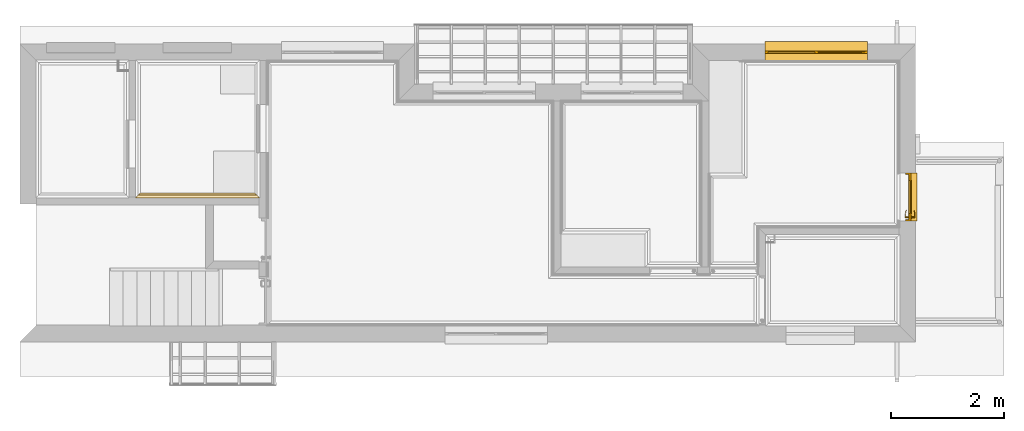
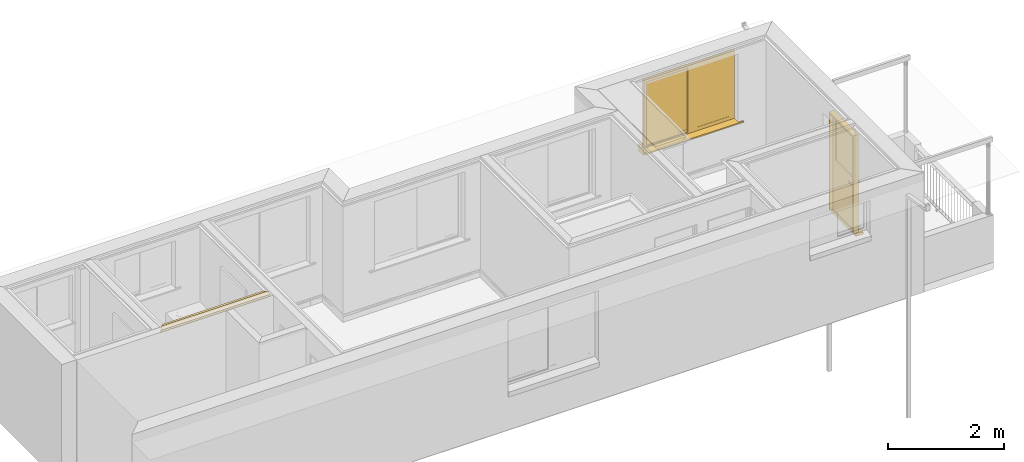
# One storey, part 11 of 18: 1 covering, 1 door, 1 window.
"""IFC2X3 building model written with IfcOpenShell, lengths in millimetres."""

import ifcopenshell
import ifcopenshell.guid

model = None  # the IFC model being written
_history = None  # IfcOwnerHistory: only IFC2X3 demands one
_inside = {}  # id of a spatial element -> (the spatial element, [elements in it])
_under = {}  # id of a project, library or spatial element -> (it, [spatial elements below it])
_declared = {}  # id of a project -> (the project, [libraries it declares])
_typed = {}  # id of a type object -> (the type object, [elements of that type])
_made_of = {}  # id of a material, layer set ... -> (it, [elements and type objects made of it])


def new_model(schema):
    """Start an empty IFC model of exactly this schema.

    Asked for "IFC4X3", IfcOpenShell would pick the latest addendum, in which some entities
    have other attributes; the version numbers below select the first issue.
    IFC2X3 requires an IfcOwnerHistory on every rooted entity: one is made here for all.
    """
    global model, _history
    if schema == "IFC4X3":
        model = ifcopenshell.file(schema_version=(4, 3, 0, 0))
    else:
        model = ifcopenshell.file(schema=schema)
    _inside.clear()
    _under.clear()
    _declared.clear()
    _typed.clear()
    _made_of.clear()
    _history = None
    if model.schema == "IFC2X3":
        org = make("IfcOrganization", Name="unknown")
        user = make(
            "IfcPersonAndOrganization",
            ThePerson=make("IfcPerson", FamilyName="unknown"),
            TheOrganization=org,
        )
        app = make(
            "IfcApplication",
            ApplicationDeveloper=org,
            Version="unknown",
            ApplicationFullName="unknown",
            ApplicationIdentifier="unknown",
        )
        _history = make(
            "IfcOwnerHistory",
            OwningUser=user,
            OwningApplication=app,
            ChangeAction="ADDED",
            CreationDate=0,
        )
    return model


def make(cls, **values):
    """One entity of the class cls with the attributes given. An attribute that is None is left unset."""
    return model.create_entity(
        cls, **{name: value for name, value in values.items() if value is not None}
    )


def entity(cls, *values):
    """Any entity or typed value of the class cls, its attributes in the order of the schema. None: left unset."""
    e = model.create_entity(cls)
    for i, value in enumerate(values):
        if value is not None:
            e[i] = value
    return e


def rooted(cls, **values):
    """An entity with a GlobalId (a new one), such as an element, a storey or a relation."""
    return make(cls, GlobalId=ifcopenshell.guid.new(), OwnerHistory=_history, **values)


def si_unit(unit_type, name, prefix=None):
    """IfcSIUnit, for example si_unit("LENGTHUNIT", "METRE", prefix="MILLI")."""
    return make("IfcSIUnit", UnitType=unit_type, Prefix=prefix, Name=name)


def converted_unit(unit_type, name, factor, base, dimensions=None, offset=None):
    """IfcConversionBasedUnit, such as the inch: factor (a typed value) times the base unit."""
    return make(
        "IfcConversionBasedUnit"
        if offset is None
        else "IfcConversionBasedUnitWithOffset",
        ConversionOffset=offset,
        Dimensions=None
        if dimensions is None
        else entity("IfcDimensionalExponents", *dimensions),
        UnitType=unit_type,
        Name=name,
        ConversionFactor=make(
            "IfcMeasureWithUnit", ValueComponent=factor, UnitComponent=base
        ),
    )


def money_unit(currency):
    """IfcMonetaryUnit."""
    return make("IfcMonetaryUnit", Currency=currency)


def assignment(units):
    """IfcUnitAssignment: the units of a project."""
    return None if units is None else make("IfcUnitAssignment", Units=units)


def point(xyz):
    """IfcCartesianPoint."""
    return None if xyz is None else make("IfcCartesianPoint", Coordinates=xyz)


def direction(xyz):
    """IfcDirection."""
    return None if xyz is None else make("IfcDirection", DirectionRatios=xyz)


def frame(location, z_axis=None, x_axis=None):
    """IfcAxis2Placement3D, a coordinate frame: its origin and axes. An axis left out is left unset."""
    return make(
        "IfcAxis2Placement3D",
        Location=point(location),
        Axis=direction(z_axis),
        RefDirection=direction(x_axis),
    )


def origin_with_axes():
    """The frame at (0, 0, 0) with the z axis (0, 0, 1) and the x axis (1, 0, 0) written out."""
    return frame((0.0, 0.0, 0.0), z_axis=(0.0, 0.0, 1.0), x_axis=(1.0, 0.0, 0.0))


def place(relative_to, where):
    """IfcLocalPlacement: puts the frame where relative to a parent placement (None: the world)."""
    return make(
        "IfcLocalPlacement", PlacementRelTo=relative_to, RelativePlacement=where
    )


def context(
    kind, dimensions, precision=None, world=None, true_north=None, identifier=None
):
    """IfcGeometricRepresentationContext, for example the 3D "Model" context."""
    return make(
        "IfcGeometricRepresentationContext",
        ContextIdentifier=identifier,
        ContextType=kind,
        CoordinateSpaceDimension=dimensions,
        Precision=precision,
        WorldCoordinateSystem=world,
        TrueNorth=true_north,
    )


def subcontext(parent, identifier, kind, view, scale=None):
    """IfcGeometricRepresentationSubContext, for example "Body" below "Model"."""
    return make(
        "IfcGeometricRepresentationSubContext",
        ContextIdentifier=identifier,
        ContextType=kind,
        ParentContext=parent,
        TargetScale=scale,
        TargetView=view,
    )


def project(units=None, contexts=None):
    """IfcProject with its units and contexts."""
    return rooted(
        "IfcProject",
        Name="project",
        RepresentationContexts=contexts,
        UnitsInContext=assignment(units),
    )


def spatial(cls, under=None, at=None, **own):
    """A site, building, storey or space (cls), placed at a placement, below another one or the project."""
    s = rooted(cls, ObjectPlacement=at, **own)
    if under is not None:
        _under.setdefault(under.id(), (under, []))[1].append(s)
    return s


def faces_of(points, faces, orient=None, outer=None):
    """IfcFace entities. A face is a list of loops; a loop is a list of indices into points, from 0.

    orient and outer hold one flag for each loop. By default every Orientation is true, the
    first loop of a face is its IfcFaceOuterBound and the others are IfcFaceBound.
    """
    made = []
    for i, loops in enumerate(faces):
        bounds = []
        for j, loop in enumerate(loops):
            is_outer = j == 0 if outer is None else outer[i][j]
            bounds.append(
                make(
                    "IfcFaceOuterBound" if is_outer else "IfcFaceBound",
                    Bound=make("IfcPolyLoop", Polygon=[points[k] for k in loop]),
                    Orientation=True if orient is None else orient[i][j],
                )
            )
        made.append(make("IfcFace", Bounds=bounds))
    return made


def faceted_brep(points, faces, orient=None, outer=None, voids=None):
    """IfcFacetedBrep: a solid bounded by flat faces; with voids (closed shells), ...WithVoids."""
    shared = [point(p) for p in points]
    hull = make("IfcClosedShell", CfsFaces=faces_of(shared, faces, orient, outer))
    if voids is None:
        return make("IfcFacetedBrep", Outer=hull)
    return make(
        "IfcFacetedBrepWithVoids",
        Outer=hull,
        Voids=[
            make(cls, CfsFaces=faces_of(shared, fs, o, b)) for cls, fs, o, b in voids
        ],
    )


def shape(context_of_items, identifier, shape_type, items):
    """IfcShapeRepresentation: the items that make up one representation, for example the "Body"."""
    return make(
        "IfcShapeRepresentation",
        ContextOfItems=context_of_items,
        RepresentationIdentifier=identifier,
        RepresentationType=shape_type,
        Items=items,
    )


def source(mapping_origin, context_of_items, identifier, shape_type, items):
    """IfcRepresentationMap: a shape defined once, which mapped items show again and again."""
    return make(
        "IfcRepresentationMap",
        MappingOrigin=mapping_origin,
        MappedRepresentation=shape(context_of_items, identifier, shape_type, items),
    )


def transform(
    local_origin,
    x_axis=None,
    y_axis=None,
    z_axis=None,
    scale=None,
    scale2=None,
    scale3=None,
    uniform=True,
):
    """IfcCartesianTransformationOperator3D, or its non-uniform kind. x_axis, y_axis, z_axis: its Axis1, 2, 3."""
    if uniform:
        return make(
            "IfcCartesianTransformationOperator3D",
            Axis1=direction(x_axis),
            Axis2=direction(y_axis),
            LocalOrigin=point(local_origin),
            Scale=scale,
            Axis3=direction(z_axis),
        )
    return make(
        "IfcCartesianTransformationOperator3DnonUniform",
        Axis1=direction(x_axis),
        Axis2=direction(y_axis),
        LocalOrigin=point(local_origin),
        Scale=scale,
        Axis3=direction(z_axis),
        Scale2=scale2,
        Scale3=scale3,
    )


def mapped(mapping_source, mapping_target):
    """IfcMappedItem: shows the shape of a source again, moved by a transform."""
    return make(
        "IfcMappedItem", MappingSource=mapping_source, MappingTarget=mapping_target
    )


def material(Name=None, Category=None):
    """IfcMaterial."""
    return make("IfcMaterial", Name=Name, Category=Category)


def material_list(materials):
    """IfcMaterialList."""
    return make("IfcMaterialList", Materials=materials)


def made_of(thing, what):
    """Note that an element or type object is made of a material, layer set ...; save() writes the relation."""
    if what is not None:
        _made_of.setdefault(what.id(), (what, []))[1].append(thing)
    return thing


def type_object(cls, material=None, **own):
    """A type object (cls), such as IfcWallType, which elements share."""
    return made_of(rooted(cls, **own), material)


def element(
    cls,
    number,
    at=None,
    inside=None,
    cuts=None,
    type_object=None,
    material=None,
    context=None,
    identifier="Body",
    shape_type=None,
    held_by="IfcProductDefinitionShape",
    body=None,
    shapes=None,
    **own,
):
    """One element of the class cls, such as IfcWall. Its Tag is "e" and its number.

    at: its placement. inside: the storey or other place that contains it. cuts: it is an
    opening in that element (IfcRelVoidsElement). A single representation is given by context,
    identifier, shape_type and body (its items); several are given by shapes. held_by: the class
    of the entity that holds the representations. save() writes the other relations.
    """
    e = rooted(cls, Tag="e%d" % number, ObjectPlacement=at, **own)
    if body is not None:
        shapes = [shape(context, identifier, shape_type, body)]
    if shapes is not None:
        e.Representation = make(held_by, Representations=shapes)
    if inside is not None:
        _inside.setdefault(inside.id(), (inside, []))[1].append(e)
    if cuts is not None:
        rooted(
            "IfcRelVoidsElement", RelatingBuildingElement=cuts, RelatedOpeningElement=e
        )
    if type_object is not None:
        _typed.setdefault(type_object.id(), (type_object, []))[1].append(e)
    return made_of(e, material)


def aggregate(whole, parts):
    """IfcRelAggregates: a whole, such as a stair, and the parts it consists of."""
    return rooted("IfcRelAggregates", RelatingObject=whole, RelatedObjects=parts)


def save(model, path):
    """Write the relations noted so far, then the file.

    IfcRelAggregates (storeys below a building ...), IfcRelContainedInSpatialStructure (elements
    in a storey), IfcRelDefinesByType, IfcRelAssociatesMaterial and IfcRelDeclares: one each for
    every whole, place, type object, material and project.
    """
    for whole, parts in _under.values():
        aggregate(whole, parts)
    for where, things in _inside.values():
        rooted(
            "IfcRelContainedInSpatialStructure",
            RelatedElements=things,
            RelatingStructure=where,
        )
    for kind, things in _typed.values():
        rooted("IfcRelDefinesByType", RelatedObjects=things, RelatingType=kind)
    for what, things in _made_of.values():
        rooted("IfcRelAssociatesMaterial", RelatedObjects=things, RelatingMaterial=what)
    for by, libraries in _declared.values():
        rooted("IfcRelDeclares", RelatingContext=by, RelatedDefinitions=libraries)
    model.write(path)


model = new_model("IFC2X3")

# Units and contexts
model_context = context("Model", 3, precision=1e-05, world=origin_with_axes(), true_north=direction((0.0, 1.0)))
body_context = subcontext(model_context, "Body", "Model", "MODEL_VIEW")
ifc_project = project(units=[si_unit("LENGTHUNIT", "METRE", prefix="MILLI"), si_unit("AREAUNIT", "SQUARE_METRE"), si_unit("VOLUMEUNIT", "CUBIC_METRE"), converted_unit("PLANEANGLEUNIT", "DEGREE", entity("IfcPlaneAngleMeasure", 0.0174532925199), si_unit("PLANEANGLEUNIT", "RADIAN"), dimensions=[0, 0, 0, 0, 0, 0, 0]), si_unit("SOLIDANGLEUNIT", "STERADIAN"), money_unit("AUD"), si_unit("TIMEUNIT", "SECOND"), si_unit("MASSUNIT", "GRAM"), si_unit("THERMODYNAMICTEMPERATUREUNIT", "DEGREE_CELSIUS"), si_unit("LUMINOUSINTENSITYUNIT", "LUMEN")], contexts=[model_context])

# Site, building, storey
site_placement = place(None, origin_with_axes())
site = spatial("IfcSite", under=ifc_project, at=site_placement, Name="Lot 1. East Hills", CompositionType="ELEMENT")
building_placement = place(site_placement, origin_with_axes())
building = spatial("IfcBuilding", under=site, at=building_placement, Name="Proposed Units 7 & 8", CompositionType="ELEMENT")
storey_placement = place(building_placement, frame((0.0, 0.0, 5859.0), z_axis=(0.0, 0.0, 1.0), x_axis=(1.0, 0.0, 0.0)))
storey = spatial("IfcBuildingStorey", under=building, at=storey_placement, Name="Level 1", CompositionType="ELEMENT", Elevation=5859.0)

# Window
ifc_material_1 = material(Name="Empty Fill")
ifc_material_2 = material(Name="air space")
ifc_material_list_1 = material_list([ifc_material_1, ifc_material_2, ifc_material_1, ifc_material_1, ifc_material_1, ifc_material_1, ifc_material_1, ifc_material_1, ifc_material_1, ifc_material_1])
window_style = type_object("IfcWindowStyle", Name="W2 Horizontal Slide 11", ConstructionType="NOTDEFINED", OperationType="DOUBLE_PANEL_VERTICAL", ParameterTakesPrecedence=False, Sizeable=False)
shared_shape_1 = source(origin_with_axes(), body_context, "Body", "Brep", [
    faceted_brep([(905.0, -16.6666666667, 0.0), (905.0, 160.83778132, -31.2988233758), (-905.0, 160.83778132, -31.2988233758), (-905.0, -16.6666666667, 0.0), (905.0, -37.5044479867, -118.176930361), (905.0, 140.0, -149.475753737), (-905.0, 140.0, -149.475753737), (-905.0, -37.5044479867, -118.176930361)], [[[0, 1, 2, 3]], [[0, 4, 5, 1]], [[1, 5, 6, 2]], [[3, 2, 6, 7]], [[4, 0, 3, 7]], [[5, 4, 7, 6]]]),
    faceted_brep([(-905.0, -50.0, 0.0), (-905.0, -174.999998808, 0.0), (-905.0, -174.999998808, 25.0), (-905.0, -50.0, 25.0), (905.0, -50.0, 0.0), (905.0, -174.999998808, 0.0), (1005.0, -174.999998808, 0.0), (1005.0, -204.999998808, 0.0), (-1005.0, -204.999998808, 0.0), (-1005.0, -174.999998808, 0.0), (-1005.0, -174.999998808, 25.0), (-1005.0, -204.999998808, 25.0), (1005.0, -204.999998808, 25.0), (1005.0, -174.999998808, 25.0), (905.0, -174.999998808, 25.0), (905.0, -50.0, 25.0)], [[[0, 1, 2, 3]], [[0, 4, 5, 6, 7, 8, 9, 1]], [[1, 9, 10, 2]], [[3, 2, 10, 11, 12, 13, 14, 15]], [[4, 0, 3, 15]], [[5, 4, 15, 14]], [[6, 5, 14, 13]], [[7, 6, 13, 12]], [[8, 7, 12, 11]], [[9, 8, 11, 10]]]),
    faceted_brep([(855.0, -50.0, 50.0), (855.0, -50.0, 1407.0), (855.0, 0.0, 1407.0), (855.0, 0.0, 50.0), (905.0, -50.0, 50.0), (905.0, -50.0, 1407.0), (905.0, 0.0, 1407.0), (905.0, 0.0, 50.0)], [[[0, 1, 2, 3]], [[0, 4, 5, 1]], [[1, 5, 6, 2]], [[3, 2, 6, 7]], [[4, 0, 3, 7]], [[5, 4, 7, 6]]]),
    faceted_brep([(-905.0, -50.0, 50.0), (-905.0, -50.0, 1407.0), (-905.0, 0.0, 1407.0), (-905.0, 0.0, 50.0), (-855.0, -50.0, 50.0), (-855.0, -50.0, 1407.0), (-855.0, 0.0, 1407.0), (-855.0, 0.0, 50.0)], [[[0, 1, 2, 3]], [[0, 4, 5, 1]], [[1, 5, 6, 2]], [[3, 2, 6, 7]], [[4, 0, 3, 7]], [[5, 4, 7, 6]]]),
    faceted_brep([(905.0, -50.0, 0.0), (-905.0, -50.0, 0.0), (-905.0, 0.0, 0.0), (905.0, 0.0, 0.0), (905.0, -50.0, 50.0), (855.0, -50.0, 50.0), (-855.0, -50.0, 50.0), (-905.0, -50.0, 50.0), (-905.0, 0.0, 50.0), (-855.0, 0.0, 50.0), (855.0, 0.0, 50.0), (905.0, 0.0, 50.0)], [[[0, 1, 2, 3]], [[0, 4, 5, 6, 7, 1]], [[1, 7, 8, 2]], [[3, 2, 8, 9, 10, 11]], [[4, 0, 3, 11]], [[5, 4, 11, 10]], [[6, 5, 10, 9]], [[7, 6, 9, 8]]]),
    faceted_brep([(905.0, -50.0, 1407.0), (855.0, -50.0, 1407.0), (855.0, 0.0, 1407.0), (905.0, 0.0, 1407.0), (905.0, -50.0, 1457.0), (-905.0, -50.0, 1457.0), (-905.0, -50.0, 1407.0), (-855.0, -50.0, 1407.0), (-855.0, 0.0, 1407.0), (-905.0, 0.0, 1407.0), (-905.0, 0.0, 1457.0), (905.0, 0.0, 1457.0)], [[[0, 1, 2, 3]], [[0, 4, 5, 6, 7, 1]], [[1, 7, 8, 2]], [[3, 2, 8, 9, 10, 11]], [[4, 0, 3, 11]], [[5, 4, 11, 10]], [[6, 5, 10, 9]], [[7, 6, 9, 8]]]),
    faceted_brep([(805.0, -50.0, 100.0), (805.0, -50.0, 1357.0), (805.0, -25.0, 1357.0), (805.0, -25.0, 100.0), (855.0, -50.0, 100.0), (855.0, -50.0, 1357.0), (855.0, -25.0, 1357.0), (855.0, -25.0, 100.0)], [[[0, 1, 2, 3]], [[0, 4, 5, 1]], [[1, 5, 6, 2]], [[3, 2, 6, 7]], [[4, 0, 3, 7]], [[5, 4, 7, 6]]]),
    faceted_brep([(-25.0, -50.0, 100.0), (-25.0, -50.0, 1357.0), (-25.0, -25.0, 1357.0), (-25.0, -25.0, 100.0), (25.0, -50.0, 100.0), (25.0, -50.0, 1357.0), (25.0, -25.0, 1357.0), (25.0, -25.0, 100.0)], [[[0, 1, 2, 3]], [[0, 4, 5, 1]], [[1, 5, 6, 2]], [[3, 2, 6, 7]], [[4, 0, 3, 7]], [[5, 4, 7, 6]]]),
    faceted_brep([(-25.0, -50.0, 50.0), (-25.0, -50.0, 100.0), (-25.0, -25.0, 100.0), (-25.0, -25.0, 50.0), (855.0, -50.0, 50.0), (855.0, -50.0, 100.0), (805.0, -50.0, 100.0), (25.0, -50.0, 100.0), (25.0, -25.0, 100.0), (805.0, -25.0, 100.0), (855.0, -25.0, 100.0), (855.0, -25.0, 50.0)], [[[0, 1, 2, 3]], [[0, 4, 5, 6, 7, 1]], [[1, 7, 8, 2]], [[3, 2, 8, 9, 10, 11]], [[4, 0, 3, 11]], [[5, 4, 11, 10]], [[6, 5, 10, 9]], [[7, 6, 9, 8]]]),
    faceted_brep([(855.0, -50.0, 1407.0), (855.0, -50.0, 1357.0), (855.0, -25.0, 1357.0), (855.0, -25.0, 1407.0), (-25.0, -50.0, 1407.0), (-25.0, -50.0, 1357.0), (25.0, -50.0, 1357.0), (805.0, -50.0, 1357.0), (805.0, -25.0, 1357.0), (25.0, -25.0, 1357.0), (-25.0, -25.0, 1357.0), (-25.0, -25.0, 1407.0)], [[[0, 1, 2, 3]], [[0, 4, 5, 6, 7, 1]], [[1, 7, 8, 2]], [[3, 2, 8, 9, 10, 11]], [[4, 0, 3, 11]], [[5, 4, 11, 10]], [[6, 5, 10, 9]], [[7, 6, 9, 8]]]),
    faceted_brep([(805.0, -47.5, 100.0), (25.0, -47.5, 100.0), (25.0, -27.5, 100.0), (805.0, -27.5, 100.0), (805.0, -47.5, 1357.0), (25.0, -47.5, 1357.0), (25.0, -27.5, 1357.0), (805.0, -27.5, 1357.0)], [[[0, 1, 2, 3]], [[0, 4, 5, 1]], [[1, 5, 6, 2]], [[3, 2, 6, 7]], [[4, 0, 3, 7]], [[5, 4, 7, 6]]]),
    faceted_brep([(-25.0, -25.0, 100.0), (-25.0, -25.0, 1357.0), (-25.0, 0.0, 1357.0), (-25.0, 0.0, 100.0), (25.0, -25.0, 100.0), (25.0, -25.0, 1357.0), (25.0, 0.0, 1357.0), (25.0, 0.0, 100.0)], [[[0, 1, 2, 3]], [[0, 4, 5, 1]], [[1, 5, 6, 2]], [[3, 2, 6, 7]], [[4, 0, 3, 7]], [[5, 4, 7, 6]]]),
    faceted_brep([(-855.0, -25.0, 100.0), (-855.0, -25.0, 1357.0), (-855.0, 0.0, 1357.0), (-855.0, 0.0, 100.0), (-805.0, -25.0, 100.0), (-805.0, -25.0, 1357.0), (-805.0, 0.0, 1357.0), (-805.0, 0.0, 100.0)], [[[0, 1, 2, 3]], [[0, 4, 5, 1]], [[1, 5, 6, 2]], [[3, 2, 6, 7]], [[4, 0, 3, 7]], [[5, 4, 7, 6]]]),
    faceted_brep([(-855.0, -25.0, 50.0), (-855.0, -25.0, 100.0), (-855.0, 0.0, 100.0), (-855.0, 0.0, 50.0), (25.0, -25.0, 50.0), (25.0, -25.0, 100.0), (-25.0, -25.0, 100.0), (-805.0, -25.0, 100.0), (-805.0, 0.0, 100.0), (-25.0, 0.0, 100.0), (25.0, 0.0, 100.0), (25.0, 0.0, 50.0)], [[[0, 1, 2, 3]], [[0, 4, 5, 6, 7, 1]], [[1, 7, 8, 2]], [[3, 2, 8, 9, 10, 11]], [[4, 0, 3, 11]], [[5, 4, 11, 10]], [[6, 5, 10, 9]], [[7, 6, 9, 8]]]),
    faceted_brep([(25.0, -25.0, 1407.0), (25.0, -25.0, 1357.0), (25.0, 0.0, 1357.0), (25.0, 0.0, 1407.0), (-855.0, -25.0, 1407.0), (-855.0, -25.0, 1357.0), (-805.0, -25.0, 1357.0), (-25.0, -25.0, 1357.0), (-25.0, 0.0, 1357.0), (-805.0, 0.0, 1357.0), (-855.0, 0.0, 1357.0), (-855.0, 0.0, 1407.0)], [[[0, 1, 2, 3]], [[0, 4, 5, 6, 7, 1]], [[1, 7, 8, 2]], [[3, 2, 8, 9, 10, 11]], [[4, 0, 3, 11]], [[5, 4, 11, 10]], [[6, 5, 10, 9]], [[7, 6, 9, 8]]]),
    faceted_brep([(-25.0, -22.5, 100.0), (-805.0, -22.5, 100.0), (-805.0, -2.5, 100.0), (-25.0, -2.5, 100.0), (-25.0, -22.5, 1357.0), (-805.0, -22.5, 1357.0), (-805.0, -2.5, 1357.0), (-25.0, -2.5, 1357.0)], [[[0, 1, 2, 3]], [[0, 4, 5, 1]], [[1, 5, 6, 2]], [[3, 2, 6, 7]], [[4, 0, 3, 7]], [[5, 4, 7, 6]]]),
])
window_placement = place(storey_placement, frame((14981.7958954, 5263.0, 857.0), z_axis=(0.0, 0.0, 1.0), x_axis=(-1.0, 0.0, 0.0)))
element("IfcWindow", 1, at=window_placement, inside=storey, type_object=window_style, material=ifc_material_list_1, Name="W005 W2 Horizontal Slide 11 1.81 x 1.457 Window", OverallHeight=1457.0, OverallWidth=1810.0, context=body_context, shape_type="MappedRepresentation", body=[
    mapped(shared_shape_1, transform((905.0, 120.0, 0.0), x_axis=(-1.0, 0.0, 0.0), y_axis=(0.0, -1.0, 0.0), z_axis=(0.0, 0.0, 1.0))),
])

# Door
ifc_material_list_2 = material_list([ifc_material_1, ifc_material_2, ifc_material_1, ifc_material_1, ifc_material_1, ifc_material_1, ifc_material_1, ifc_material_1, ifc_material_1])
door_style = type_object("IfcDoorStyle", Name="D1 12", ConstructionType="NOTDEFINED", OperationType="SINGLE_SWING_LEFT", ParameterTakesPrecedence=False, Sizeable=False)
shared_shape_2 = source(origin_with_axes(), body_context, "Body", "Brep", [
    faceted_brep([(425.0, -50.0, 0.0), (425.0, -40.0, 0.0), (-425.0, -40.0, 0.0), (-425.0, -50.0, 0.0), (425.0, -50.0, -75.0), (425.0, 100.0, -75.0), (425.0, 100.0, -34.6857772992), (425.0, -40.0, -10.0), (-425.0, -40.0, -10.0), (-425.0, 100.0, -34.6857772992), (-425.0, 100.0, -75.0), (-425.0, -50.0, -75.0)], [[[0, 1, 2, 3]], [[0, 4, 5, 6, 7, 1]], [[1, 7, 8, 2]], [[3, 2, 8, 9, 10, 11]], [[4, 0, 3, 11]], [[5, 4, 11, 10]], [[6, 5, 10, 9]], [[7, 6, 9, 8]]]),
    faceted_brep([(410.0, -35.0, 0.0), (425.0, -35.0, 0.0), (425.0, -35.0, 2037.0), (410.0, -35.0, 2037.0), (410.0, 0.0, 0.0), (425.0, 0.0, 0.0), (425.0, 0.0, 2037.0), (410.0, 0.0, 2037.0)], [[[0, 1, 2, 3]], [[4, 5, 1, 0]], [[2, 1, 5, 6]], [[3, 2, 6, 7]], [[7, 4, 0, 3]], [[7, 6, 5, 4]]]),
    faceted_brep([(395.0, -35.0, 0.0), (395.0, -100.0, 0.0), (395.0, -100.0, 2037.0), (395.0, -35.0, 2037.0), (425.0, -35.0, 0.0), (425.0, -100.0, 0.0), (425.0, -100.0, 2037.0), (425.0, -35.0, 2037.0)], [[[0, 1, 2, 3]], [[4, 5, 1, 0]], [[1, 5, 6, 2]], [[3, 2, 6, 7]], [[0, 3, 7, 4]], [[7, 6, 5, 4]]]),
    faceted_brep([(-410.0, 0.0, 2037.0), (-425.0, 0.0, 2037.0), (-425.0, -35.0, 2037.0), (-410.0, -35.0, 2037.0), (-410.0, 0.0, 0.0), (-425.0, 0.0, 0.0), (-425.0, -35.0, 0.0), (-410.0, -35.0, 0.0)], [[[0, 1, 2, 3]], [[4, 5, 1, 0]], [[6, 2, 1, 5]], [[3, 2, 6, 7]], [[7, 4, 0, 3]], [[7, 6, 5, 4]]]),
    faceted_brep([(-425.0, -35.0, 0.0), (-425.0, -100.0, 0.0), (-425.0, -100.0, 2037.0), (-425.0, -35.0, 2037.0), (-395.0, -35.0, 0.0), (-395.0, -100.0, 0.0), (-395.0, -100.0, 2037.0), (-395.0, -35.0, 2037.0)], [[[0, 1, 2, 3]], [[4, 5, 1, 0]], [[1, 5, 6, 2]], [[3, 2, 6, 7]], [[0, 3, 7, 4]], [[7, 6, 5, 4]]]),
    faceted_brep([(410.0, -35.0, 2037.0), (425.0, -35.0, 2037.0), (425.0, -35.0, 2067.0), (-425.0, -35.0, 2067.0), (-425.0, -35.0, 2037.0), (-410.0, -35.0, 2037.0), (-410.0, -35.0, 2052.0), (410.0, -35.0, 2052.0), (410.0, 0.0, 2037.0), (425.0, 0.0, 2037.0), (425.0, 0.0, 2067.0), (-425.0, 0.0, 2067.0), (-425.0, 0.0, 2037.0), (-410.0, 0.0, 2037.0), (-410.0, 0.0, 2052.0), (410.0, 0.0, 2052.0)], [[[0, 1, 2, 3, 4, 5, 6, 7]], [[8, 9, 1, 0]], [[2, 1, 9, 10]], [[3, 2, 10, 11]], [[4, 3, 11, 12]], [[5, 4, 12, 13]], [[5, 13, 14, 6]], [[6, 14, 15, 7]], [[7, 15, 8, 0]], [[15, 14, 13, 12, 11, 10, 9, 8]]]),
    faceted_brep([(425.0, -35.0, 2067.0), (425.0, -100.0, 2067.0), (425.0, -100.0, 2037.0), (425.0, -35.0, 2037.0), (-425.0, -35.0, 2067.0), (-425.0, -100.0, 2067.0), (-425.0, -100.0, 2037.0), (-395.0, -100.0, 2037.0), (395.0, -100.0, 2037.0), (395.0, -35.0, 2037.0), (-395.0, -35.0, 2037.0), (-425.0, -35.0, 2037.0)], [[[0, 1, 2, 3]], [[4, 5, 1, 0]], [[1, 5, 6, 7, 8, 2]], [[3, 2, 8, 9]], [[0, 3, 9, 10, 11, 4]], [[11, 6, 5, 4]], [[10, 7, 6, 11]], [[9, 8, 7, 10]]]),
    faceted_brep([(388.5, -35.0, 1060.0), (331.5, -35.0, 1060.0), (331.5, -38.0, 1060.0), (388.5, -38.0, 1060.0), (388.5, -35.0, 870.0), (331.5, -35.0, 870.0), (331.5, -38.0, 870.0), (388.5, -38.0, 870.0)], [[[0, 1, 2, 3]], [[0, 4, 5, 1]], [[1, 5, 6, 2]], [[3, 2, 6, 7]], [[4, 0, 3, 7]], [[5, 4, 7, 6]]]),
    faceted_brep([(360.0, -99.0, 990.0), (365.0, -99.0, 991.339745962), (365.0, -106.0, 991.339745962), (360.0, -106.0, 990.0), (335.0, -99.0, 990.0), (335.0, -99.0, 1010.0), (360.0, -99.0, 1010.0), (365.0, -99.0, 1008.66025404), (368.660254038, -99.0, 1005.0), (370.0, -99.0, 1000.0), (368.660254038, -99.0, 995.0), (368.660254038, -106.0, 995.0), (370.0, -106.0, 1000.0), (368.660254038, -106.0, 1005.0), (365.0, -106.0, 1008.66025404), (360.0, -106.0, 1010.0), (335.0, -106.0, 1010.0), (335.0, -106.0, 990.0)], [[[0, 1, 2, 3]], [[0, 4, 5, 6, 7, 8, 9, 10, 1]], [[1, 10, 11, 2]], [[3, 2, 11, 12, 13, 14, 15, 16, 17]], [[4, 0, 3, 17]], [[5, 4, 17, 16]], [[6, 5, 16, 15]], [[7, 6, 15, 14]], [[8, 7, 14, 13]], [[9, 8, 13, 12]], [[10, 9, 12, 11]]]),
    faceted_brep([(335.0, -99.0, 1010.0), (321.901717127, -99.0, 1009.60730092), (321.596090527, -106.0, 1009.60730092), (335.0, -99.0, 990.0), (321.901717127, -99.0, 990.392699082), (294.890283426, -103.663544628, 1008.82190275), (335.0, -106.0, 1010.0), (335.0, -106.0, 990.0), (295.804837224, -96.716818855, 991.178097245), (295.804837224, -96.716818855, 1008.82190275), (294.890283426, -103.663544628, 991.178097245), (321.596090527, -106.0, 990.392699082), (270.006256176, -92.1678329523, 991.963495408), (270.006256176, -92.1678329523, 1008.03650459), (268.489735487, -99.0084157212, 1008.03650459), (268.489735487, -99.0084157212, 991.963495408), (244.702316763, -85.3876628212, 992.748893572), (244.702316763, -85.3876628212, 1007.25110643), (242.59537082, -92.0700416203, 1007.25110643), (242.59537082, -92.0700416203, 992.748893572), (236.829442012, -82.5221707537, 993.0), (236.829442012, -82.5221707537, 1007.0), (234.538795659, -89.1376880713, 1007.0), (234.538795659, -89.1376880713, 993.0)], [[[0, 1, 2]], [[0, 3, 4, 1]], [[1, 5, 2]], [[0, 2, 6]], [[3, 0, 6, 7]], [[4, 3, 7]], [[1, 4, 8, 9]], [[1, 9, 5]], [[2, 5, 10, 11]], [[6, 2, 11, 7]], [[4, 7, 11]], [[8, 4, 11]], [[9, 8, 12, 13]], [[9, 14, 5]], [[5, 14, 15, 10]], [[8, 11, 10]], [[12, 8, 10]], [[13, 12, 16, 17]], [[9, 13, 14]], [[14, 18, 19, 15]], [[12, 10, 15]], [[16, 12, 15]], [[17, 16, 20, 21]], [[13, 17, 18]], [[13, 18, 14]], [[18, 22, 23, 19]], [[16, 15, 19]], [[20, 16, 19]], [[21, 20, 23, 22]], [[17, 21, 22]], [[17, 22, 18]], [[20, 19, 23]]]),
    faceted_brep([(349.607695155, -48.0, 994.0), (348.0, -48.0, 1000.0), (347.0, -38.0, 1000.0), (348.741669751, -38.0, 993.5), (354.0, -48.0, 989.607695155), (360.0, -48.0, 988.0), (366.0, -48.0, 989.607695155), (370.392304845, -48.0, 994.0), (372.0, -48.0, 1000.0), (370.392304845, -48.0, 1006.0), (366.0, -48.0, 1010.39230485), (360.0, -48.0, 1012.0), (354.0, -48.0, 1010.39230485), (349.607695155, -48.0, 1006.0), (348.741669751, -38.0, 1006.5), (353.5, -38.0, 1011.25833025), (360.0, -38.0, 1013.0), (366.5, -38.0, 1011.25833025), (371.258330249, -38.0, 1006.5), (373.0, -38.0, 1000.0), (371.258330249, -38.0, 993.5), (366.5, -38.0, 988.741669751), (360.0, -38.0, 987.0), (353.5, -38.0, 988.741669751)], [[[0, 1, 2, 3]], [[1, 0, 4, 5, 6, 7, 8, 9, 10, 11, 12, 13]], [[1, 13, 14, 2]], [[2, 14, 15, 16, 17, 18, 19, 20, 21, 22, 23, 3]], [[4, 0, 3, 23]], [[5, 4, 23, 22]], [[6, 5, 22, 21]], [[7, 6, 21, 20]], [[8, 7, 20, 19]], [[9, 8, 19, 18]], [[10, 9, 18, 17]], [[11, 10, 17, 16]], [[12, 11, 16, 15]], [[13, 12, 15, 14]]]),
    faceted_brep([(342.679491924, -42.0, 895.0), (340.0, -42.0, 905.0), (338.0, -38.0, 905.0), (340.947441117, -38.0, 894.0), (350.0, -42.0, 887.679491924), (360.0, -42.0, 885.0), (370.0, -42.0, 887.679491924), (377.320508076, -42.0, 895.0), (380.0, -42.0, 905.0), (377.320508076, -42.0, 915.0), (370.0, -42.0, 922.320508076), (360.0, -42.0, 925.0), (350.0, -42.0, 922.320508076), (342.679491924, -42.0, 915.0), (340.947441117, -38.0, 916.0), (349.0, -38.0, 924.052558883), (360.0, -38.0, 927.0), (371.0, -38.0, 924.052558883), (379.052558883, -38.0, 916.0), (382.0, -38.0, 905.0), (379.052558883, -38.0, 894.0), (371.0, -38.0, 885.947441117), (360.0, -38.0, 883.0), (349.0, -38.0, 885.947441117)], [[[0, 1, 2, 3]], [[1, 0, 4, 5, 6, 7, 8, 9, 10, 11, 12, 13]], [[1, 13, 14, 2]], [[2, 14, 15, 16, 17, 18, 19, 20, 21, 22, 23, 3]], [[4, 0, 3, 23]], [[5, 4, 23, 22]], [[6, 5, 22, 21]], [[7, 6, 21, 20]], [[8, 7, 20, 19]], [[9, 8, 19, 18]], [[10, 9, 18, 17]], [[11, 10, 17, 16]], [[12, 11, 16, 15]], [[13, 12, 15, 14]]]),
    faceted_brep([(353.937822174, -44.0, 910.5), (353.0, -44.0, 914.0), (352.0, -42.0, 914.0), (353.07179677, -42.0, 910.0), (356.5, -44.0, 907.937822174), (360.0, -44.0, 907.0), (363.5, -44.0, 907.937822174), (366.062177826, -44.0, 910.5), (367.0, -44.0, 914.0), (366.062177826, -44.0, 917.5), (363.5, -44.0, 920.062177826), (360.0, -44.0, 921.0), (356.5, -44.0, 920.062177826), (353.937822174, -44.0, 917.5), (353.07179677, -42.0, 918.0), (356.0, -42.0, 920.92820323), (360.0, -42.0, 922.0), (364.0, -42.0, 920.92820323), (366.92820323, -42.0, 918.0), (368.0, -42.0, 914.0), (366.92820323, -42.0, 910.0), (364.0, -42.0, 907.07179677), (360.0, -42.0, 906.0), (356.0, -42.0, 907.07179677)], [[[0, 1, 2, 3]], [[1, 0, 4, 5, 6, 7, 8, 9, 10, 11, 12, 13]], [[1, 13, 14, 2]], [[2, 14, 15, 16, 17, 18, 19, 20, 21, 22, 23, 3]], [[4, 0, 3, 23]], [[5, 4, 23, 22]], [[6, 5, 22, 21]], [[7, 6, 21, 20]], [[8, 7, 20, 19]], [[9, 8, 19, 18]], [[10, 9, 18, 17]], [[11, 10, 17, 16]], [[12, 11, 16, 15]], [[13, 12, 15, 14]]]),
    faceted_brep([(360.0, -48.0, 1010.0), (355.0, -48.0, 1008.66025404), (355.0, -99.0, 1008.66025404), (360.0, -99.0, 1010.0), (365.0, -48.0, 1008.66025404), (368.660254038, -48.0, 1005.0), (370.0, -48.0, 1000.0), (368.660254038, -48.0, 995.0), (365.0, -48.0, 991.339745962), (360.0, -48.0, 990.0), (355.0, -48.0, 991.339745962), (351.339745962, -48.0, 995.0), (350.0, -48.0, 1000.0), (351.339745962, -48.0, 1005.0), (351.339745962, -99.0, 1005.0), (350.0, -99.0, 1000.0), (351.339745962, -99.0, 995.0), (355.0, -99.0, 991.339745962), (360.0, -99.0, 990.0), (365.0, -99.0, 991.339745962), (368.660254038, -99.0, 995.0), (370.0, -99.0, 1000.0), (368.660254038, -99.0, 1005.0), (365.0, -99.0, 1008.66025404)], [[[0, 1, 2, 3]], [[0, 4, 5, 6, 7, 8, 9, 10, 11, 12, 13, 1]], [[1, 13, 14, 2]], [[3, 2, 14, 15, 16, 17, 18, 19, 20, 21, 22, 23]], [[4, 0, 3, 23]], [[5, 4, 23, 22]], [[6, 5, 22, 21]], [[7, 6, 21, 20]], [[8, 7, 20, 19]], [[9, 8, 19, 18]], [[10, 9, 18, 17]], [[11, 10, 17, 16]], [[12, 11, 16, 15]], [[13, 12, 15, 14]]]),
    faceted_brep([(388.5, 0.0, 1060.0), (388.5, 3.0, 1060.0), (331.5, 3.0, 1060.0), (331.5, 0.0, 1060.0), (388.5, 0.0, 870.0), (388.5, 3.0, 870.0), (331.5, 3.0, 870.0), (331.5, 0.0, 870.0)], [[[0, 1, 2, 3]], [[4, 5, 1, 0]], [[1, 5, 6, 2]], [[3, 2, 6, 7]], [[0, 3, 7, 4]], [[7, 6, 5, 4]]]),
    faceted_brep([(360.0, 64.0, 990.0), (360.0, 71.0, 990.0), (365.0, 71.0, 991.339745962), (365.0, 64.0, 991.339745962), (335.0, 64.0, 990.0), (335.0, 71.0, 990.0), (335.0, 71.0, 1010.0), (360.0, 71.0, 1010.0), (365.0, 71.0, 1008.66025404), (368.660254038, 71.0, 1005.0), (370.0, 71.0, 1000.0), (368.660254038, 71.0, 995.0), (368.660254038, 64.0, 995.0), (370.0, 64.0, 1000.0), (368.660254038, 64.0, 1005.0), (365.0, 64.0, 1008.66025404), (360.0, 64.0, 1010.0), (335.0, 64.0, 1010.0)], [[[0, 1, 2, 3]], [[4, 5, 1, 0]], [[1, 5, 6, 7, 8, 9, 10, 11, 2]], [[3, 2, 11, 12]], [[0, 3, 12, 13, 14, 15, 16, 17, 4]], [[17, 6, 5, 4]], [[16, 7, 6, 17]], [[15, 8, 7, 16]], [[14, 9, 8, 15]], [[13, 10, 9, 14]], [[12, 11, 10, 13]]]),
    faceted_brep([(335.0, 64.0, 1010.0), (321.596090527, 71.0, 1009.60730092), (321.901717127, 64.0, 1009.60730092), (335.0, 71.0, 1010.0), (294.890283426, 68.6635446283, 1008.82190275), (321.901717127, 64.0, 990.392699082), (335.0, 64.0, 990.0), (335.0, 71.0, 990.0), (321.596090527, 71.0, 990.392699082), (294.890283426, 68.6635446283, 991.178097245), (295.804837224, 61.716818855, 1008.82190275), (295.804837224, 61.716818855, 991.178097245), (268.489735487, 64.0084157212, 991.963495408), (268.489735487, 64.0084157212, 1008.03650459), (270.006256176, 57.1678329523, 1008.03650459), (270.006256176, 57.1678329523, 991.963495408), (242.59537082, 57.0700416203, 992.748893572), (242.59537082, 57.0700416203, 1007.25110643), (244.702316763, 50.3876628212, 1007.25110643), (244.702316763, 50.3876628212, 992.748893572), (234.538795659, 54.1376880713, 993.0), (234.538795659, 54.1376880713, 1007.0), (236.829442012, 47.5221707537, 1007.0), (236.829442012, 47.5221707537, 993.0)], [[[0, 1, 2]], [[0, 3, 1]], [[2, 1, 4]], [[0, 2, 5, 6]], [[6, 7, 3, 0]], [[3, 7, 8, 1]], [[1, 8, 9, 4]], [[2, 4, 10]], [[2, 10, 11, 5]], [[5, 7, 6]], [[5, 8, 7]], [[11, 9, 8]], [[4, 9, 12, 13]], [[10, 4, 13]], [[10, 14, 15, 11]], [[11, 8, 5]], [[15, 9, 11]], [[15, 12, 9]], [[13, 12, 16, 17]], [[10, 13, 14]], [[14, 18, 19, 15]], [[19, 12, 15]], [[19, 16, 12]], [[17, 16, 20, 21]], [[14, 13, 17]], [[14, 17, 18]], [[18, 22, 23, 19]], [[23, 16, 19]], [[23, 20, 16]], [[22, 21, 20, 23]], [[18, 17, 21]], [[18, 21, 22]]]),
    faceted_brep([(349.607695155, 13.0, 994.0), (348.741669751, 3.0, 993.5), (347.0, 3.0, 1000.0), (348.0, 13.0, 1000.0), (354.0, 13.0, 989.607695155), (353.5, 3.0, 988.741669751), (360.0, 3.0, 987.0), (366.5, 3.0, 988.741669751), (371.258330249, 3.0, 993.5), (373.0, 3.0, 1000.0), (371.258330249, 3.0, 1006.5), (366.5, 3.0, 1011.25833025), (360.0, 3.0, 1013.0), (353.5, 3.0, 1011.25833025), (348.741669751, 3.0, 1006.5), (349.607695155, 13.0, 1006.0), (354.0, 13.0, 1010.39230485), (360.0, 13.0, 1012.0), (366.0, 13.0, 1010.39230485), (370.392304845, 13.0, 1006.0), (372.0, 13.0, 1000.0), (370.392304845, 13.0, 994.0), (366.0, 13.0, 989.607695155), (360.0, 13.0, 988.0)], [[[0, 1, 2, 3]], [[4, 5, 1, 0]], [[2, 1, 5, 6, 7, 8, 9, 10, 11, 12, 13, 14]], [[3, 2, 14, 15]], [[3, 15, 16, 17, 18, 19, 20, 21, 22, 23, 4, 0]], [[23, 6, 5, 4]], [[22, 7, 6, 23]], [[21, 8, 7, 22]], [[20, 9, 8, 21]], [[19, 10, 9, 20]], [[18, 11, 10, 19]], [[17, 12, 11, 18]], [[16, 13, 12, 17]], [[15, 14, 13, 16]]]),
    faceted_brep([(342.679491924, 7.0, 895.0), (340.947441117, 3.0, 894.0), (338.0, 3.0, 905.0), (340.0, 7.0, 905.0), (350.0, 7.0, 887.679491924), (349.0, 3.0, 885.947441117), (360.0, 3.0, 883.0), (371.0, 3.0, 885.947441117), (379.052558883, 3.0, 894.0), (382.0, 3.0, 905.0), (379.052558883, 3.0, 916.0), (371.0, 3.0, 924.052558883), (360.0, 3.0, 927.0), (349.0, 3.0, 924.052558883), (340.947441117, 3.0, 916.0), (342.679491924, 7.0, 915.0), (350.0, 7.0, 922.320508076), (360.0, 7.0, 925.0), (370.0, 7.0, 922.320508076), (377.320508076, 7.0, 915.0), (380.0, 7.0, 905.0), (377.320508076, 7.0, 895.0), (370.0, 7.0, 887.679491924), (360.0, 7.0, 885.0)], [[[0, 1, 2, 3]], [[4, 5, 1, 0]], [[2, 1, 5, 6, 7, 8, 9, 10, 11, 12, 13, 14]], [[3, 2, 14, 15]], [[3, 15, 16, 17, 18, 19, 20, 21, 22, 23, 4, 0]], [[23, 6, 5, 4]], [[22, 7, 6, 23]], [[21, 8, 7, 22]], [[20, 9, 8, 21]], [[19, 10, 9, 20]], [[18, 11, 10, 19]], [[17, 12, 11, 18]], [[16, 13, 12, 17]], [[15, 14, 13, 16]]]),
    faceted_brep([(353.937822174, 9.0, 910.5), (353.07179677, 7.0, 910.0), (352.0, 7.0, 914.0), (353.0, 9.0, 914.0), (356.5, 9.0, 907.937822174), (356.0, 7.0, 907.07179677), (360.0, 7.0, 906.0), (364.0, 7.0, 907.07179677), (366.92820323, 7.0, 910.0), (368.0, 7.0, 914.0), (366.92820323, 7.0, 918.0), (364.0, 7.0, 920.92820323), (360.0, 7.0, 922.0), (356.0, 7.0, 920.92820323), (353.07179677, 7.0, 918.0), (353.937822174, 9.0, 917.5), (356.5, 9.0, 920.062177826), (360.0, 9.0, 921.0), (363.5, 9.0, 920.062177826), (366.062177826, 9.0, 917.5), (367.0, 9.0, 914.0), (366.062177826, 9.0, 910.5), (363.5, 9.0, 907.937822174), (360.0, 9.0, 907.0)], [[[0, 1, 2, 3]], [[4, 5, 1, 0]], [[2, 1, 5, 6, 7, 8, 9, 10, 11, 12, 13, 14]], [[3, 2, 14, 15]], [[3, 15, 16, 17, 18, 19, 20, 21, 22, 23, 4, 0]], [[23, 6, 5, 4]], [[22, 7, 6, 23]], [[21, 8, 7, 22]], [[20, 9, 8, 21]], [[19, 10, 9, 20]], [[18, 11, 10, 19]], [[17, 12, 11, 18]], [[16, 13, 12, 17]], [[15, 14, 13, 16]]]),
    faceted_brep([(360.0, 13.0, 1010.0), (360.0, 64.0, 1010.0), (355.0, 64.0, 1008.66025404), (355.0, 13.0, 1008.66025404), (365.0, 13.0, 1008.66025404), (365.0, 64.0, 1008.66025404), (368.660254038, 64.0, 1005.0), (370.0, 64.0, 1000.0), (368.660254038, 64.0, 995.0), (365.0, 64.0, 991.339745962), (360.0, 64.0, 990.0), (355.0, 64.0, 991.339745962), (351.339745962, 64.0, 995.0), (350.0, 64.0, 1000.0), (351.339745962, 64.0, 1005.0), (351.339745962, 13.0, 1005.0), (350.0, 13.0, 1000.0), (351.339745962, 13.0, 995.0), (355.0, 13.0, 991.339745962), (360.0, 13.0, 990.0), (365.0, 13.0, 991.339745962), (368.660254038, 13.0, 995.0), (370.0, 13.0, 1000.0), (368.660254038, 13.0, 1005.0)], [[[0, 1, 2, 3]], [[4, 5, 1, 0]], [[1, 5, 6, 7, 8, 9, 10, 11, 12, 13, 14, 2]], [[3, 2, 14, 15]], [[0, 3, 15, 16, 17, 18, 19, 20, 21, 22, 23, 4]], [[23, 6, 5, 4]], [[22, 7, 6, 23]], [[21, 8, 7, 22]], [[20, 9, 8, 21]], [[19, 10, 9, 20]], [[18, 11, 10, 19]], [[17, 12, 11, 18]], [[16, 13, 12, 17]], [[15, 14, 13, 16]]]),
    faceted_brep([(410.0, 0.0, 0.0), (410.0, -17.5, 0.0), (-410.0, -17.5, 0.0), (-410.0, 0.0, 0.0), (410.0, 0.0, 2052.0), (410.0, -17.5, 2052.0), (-410.0, -17.5, 2052.0), (290.0, -17.5, 1100.0), (-292.0, -17.5, 1100.0), (-292.0, -17.5, 1942.0), (290.0, -17.5, 1942.0), (-410.0, 0.0, 2052.0), (290.0, 0.0, 1100.0), (290.0, 0.0, 1942.0), (-292.0, 0.0, 1942.0), (-292.0, 0.0, 1100.0)], [[[0, 1, 2, 3]], [[4, 5, 1, 0]], [[1, 5, 6, 2], [7, 8, 9, 10]], [[3, 2, 6, 11]], [[0, 3, 11, 4], [12, 13, 14, 15]], [[11, 6, 5, 4]], [[15, 8, 7, 12]], [[14, 9, 8, 15]], [[13, 10, 9, 14]], [[12, 7, 10, 13]]]),
    faceted_brep([(410.0, -17.5, 0.0), (410.0, -35.0, 0.0), (-410.0, -35.0, 0.0), (-410.0, -17.5, 0.0), (410.0, -17.5, 2052.0), (410.0, -35.0, 2052.0), (-410.0, -35.0, 2052.0), (290.0, -35.0, 1100.0), (-292.0, -35.0, 1100.0), (-292.0, -35.0, 1942.0), (290.0, -35.0, 1942.0), (-410.0, -17.5, 2052.0), (290.0, -17.5, 1100.0), (290.0, -17.5, 1942.0), (-292.0, -17.5, 1942.0), (-292.0, -17.5, 1100.0)], [[[0, 1, 2, 3]], [[4, 5, 1, 0]], [[1, 5, 6, 2], [7, 8, 9, 10]], [[3, 2, 6, 11]], [[0, 3, 11, 4], [12, 13, 14, 15]], [[11, 6, 5, 4]], [[15, 8, 7, 12]], [[14, 9, 8, 15]], [[13, 10, 9, 14]], [[12, 7, 10, 13]]]),
    faceted_brep([(290.0, -12.5, 1100.0), (290.0, -22.5, 1100.0), (-292.0, -22.5, 1100.0), (-292.0, -12.5, 1100.0), (290.0, -12.5, 1942.0), (290.0, -22.5, 1942.0), (-292.0, -22.5, 1942.0), (-292.0, -12.5, 1942.0)], [[[0, 1, 2, 3]], [[4, 5, 1, 0]], [[1, 5, 6, 2]], [[3, 2, 6, 7]], [[0, 3, 7, 4]], [[7, 6, 5, 4]]]),
    faceted_brep([(300.0, 10.0, 1090.0), (300.0, 0.0, 1090.0), (-302.0, 0.0, 1090.0), (-302.0, 10.0, 1090.0), (300.0, 10.0, 1952.0), (300.0, 0.0, 1952.0), (-302.0, 0.0, 1952.0), (290.0, 0.0, 1100.0), (-292.0, 0.0, 1100.0), (-292.0, 0.0, 1942.0), (290.0, 0.0, 1942.0), (-302.0, 10.0, 1952.0), (290.0, 10.0, 1100.0), (290.0, 10.0, 1942.0), (-292.0, 10.0, 1942.0), (-292.0, 10.0, 1100.0)], [[[0, 1, 2, 3]], [[4, 5, 1, 0]], [[1, 5, 6, 2], [7, 8, 9, 10]], [[3, 2, 6, 11]], [[0, 3, 11, 4], [12, 13, 14, 15]], [[11, 6, 5, 4]], [[15, 8, 7, 12]], [[14, 9, 8, 15]], [[13, 10, 9, 14]], [[12, 7, 10, 13]]]),
    faceted_brep([(300.0, -35.0, 1090.0), (300.0, -45.0, 1090.0), (-302.0, -45.0, 1090.0), (-302.0, -35.0, 1090.0), (300.0, -35.0, 1952.0), (300.0, -45.0, 1952.0), (-302.0, -45.0, 1952.0), (290.0, -45.0, 1100.0), (-292.0, -45.0, 1100.0), (-292.0, -45.0, 1942.0), (290.0, -45.0, 1942.0), (-302.0, -35.0, 1952.0), (290.0, -35.0, 1100.0), (290.0, -35.0, 1942.0), (-292.0, -35.0, 1942.0), (-292.0, -35.0, 1100.0)], [[[0, 1, 2, 3]], [[4, 5, 1, 0]], [[1, 5, 6, 2], [7, 8, 9, 10]], [[3, 2, 6, 11]], [[0, 3, 11, 4], [12, 13, 14, 15]], [[11, 6, 5, 4]], [[15, 8, 7, 12]], [[14, 9, 8, 15]], [[13, 10, 9, 14]], [[12, 7, 10, 13]]]),
])
door_placement = place(storey_placement, frame((15830.0, 2986.32110375, 0.0), z_axis=(0.0, 0.0, 1.0), x_axis=(0.0, -1.0, 0.0)))
element("IfcDoor", 2, at=door_placement, inside=storey, type_object=door_style, material=ifc_material_list_2, Name="15 D1 12 0.85 x 2.067 x 1 Door", OverallHeight=2067.0, OverallWidth=850.0, context=body_context, shape_type="MappedRepresentation", body=[
    mapped(shared_shape_2, transform((425.0, -80.0, 0.0))),
])

# Covering
ifc_material_3 = material(Name="50 %")
covering_type = type_object("IfcCoveringType", Name="Molding Straight 12", PredefinedType="NOTDEFINED")
shared_shape_3 = source(origin_with_axes(), body_context, "Body", "Brep", [
    faceted_brep([(-2199.99999993, 0.0, -97.7142857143), (0.0, 0.0, -97.7142857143), (-20.5714285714, -20.5714285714, -97.7142857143), (-2179.42857135, -20.5714285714, -97.7142857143), (-2199.99999993, 0.0, -48.8571428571), (0.0, 0.0, -48.8571428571), (-48.8571428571, -48.8571428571, 0.0), (-90.0, -90.0, 0.0), (-90.0, -90.0, -12.8571428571), (-74.5714285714, -74.5714285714, -12.8571428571), (-74.5714285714, -74.5714285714, -25.7142857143), (-60.5952001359, -60.5952001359, -27.5542910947), (-47.5714285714, -47.5714285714, -32.9489139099), (-36.3876623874, -36.3876623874, -41.5305195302), (-27.8060567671, -27.8060567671, -52.7142857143), (-22.4114339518, -22.4114339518, -65.7380572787), (-20.5714285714, -20.5714285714, -79.7142857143), (-2179.42857135, -20.5714285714, -79.7142857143), (-2177.58856597, -22.4114339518, -65.7380572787), (-2172.19394316, -27.8060567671, -52.7142857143), (-2163.61233754, -36.3876623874, -41.5305195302), (-2152.42857135, -47.5714285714, -32.9489139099), (-2139.40479979, -60.5952001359, -27.5542910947), (-2125.42857135, -74.5714285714, -25.7142857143), (-2125.42857135, -74.5714285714, -12.8571428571), (-2109.99999993, -90.0, -12.8571428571), (-2109.99999993, -90.0, 0.0), (-2151.14285707, -48.8571428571, 0.0)], [[[0, 1, 2, 3]], [[4, 5, 1, 0]], [[1, 5, 6, 7, 8, 9, 10, 11, 12, 13, 14, 15, 16, 2]], [[3, 2, 16, 17]], [[0, 3, 17, 18, 19, 20, 21, 22, 23, 24, 25, 26, 27, 4]], [[27, 6, 5, 4]], [[26, 7, 6, 27]], [[25, 8, 7, 26]], [[24, 9, 8, 25]], [[23, 10, 9, 24]], [[22, 11, 10, 23]], [[21, 12, 11, 22]], [[20, 13, 12, 21]], [[19, 14, 13, 20]], [[18, 15, 14, 19]], [[17, 16, 15, 18]]]),
])
covering_placement = place(storey_placement, frame((2039.9999994, 2543.00000067, 2523.0), z_axis=(0.0, 0.0, 1.0), x_axis=(-1.0, 0.0, 0.0)))
element("IfcCovering", 3, at=covering_placement, inside=storey, type_object=covering_type, material=ifc_material_3, Name="CEL_MOD_130 - Molding Straight 12 - object -", PredefinedType="NOTDEFINED", context=body_context, shape_type="MappedRepresentation", body=[
    mapped(shared_shape_3, transform((0.0, 0.0, 0.0))),
])

save(model, "model.ifc")
